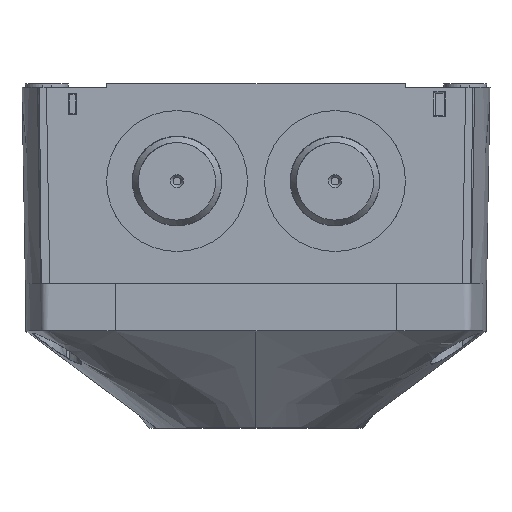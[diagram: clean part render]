
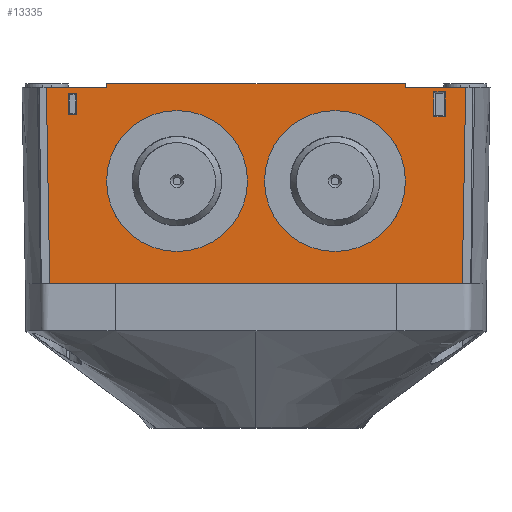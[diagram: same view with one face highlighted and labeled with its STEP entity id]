
A CAD part, top view. The second image highlights one B-rep face of the part: STEP entity #13335.
In plain terms, the highlighted planar face has unit normal (0, 0, 1).
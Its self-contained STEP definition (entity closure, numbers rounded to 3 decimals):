
#2551 = FACE_BOUND ( 'NONE', #16894, .T. ) ;
#2552 = FACE_BOUND ( 'NONE', #13307, .T. ) ;
#2553 = FACE_BOUND ( 'NONE', #16893, .T. ) ;
#2554 = FACE_BOUND ( 'NONE', #13068, .T. ) ;
#2556 = FACE_OUTER_BOUND ( 'NONE', #13258, .T. ) ;
#2949 = PLANE ( 'NONE',  #18860 ) ;
#2958 = CARTESIAN_POINT ( 'NONE',  ( 75., 46.8, 129.4 ) ) ;
#2959 = DIRECTION ( 'NONE',  ( 0., 0., -1. ) ) ;
#2960 = DIRECTION ( 'NONE',  ( -1., 0., 0. ) ) ;
#6425 = AXIS2_PLACEMENT_3D ( 'NONE', #8048, #8049, #8050 ) ;
#6428 = AXIS2_PLACEMENT_3D ( 'NONE', #8067, #8068, #8069 ) ;
#8022 = CARTESIAN_POINT ( 'NONE',  ( -44., 39.5, 129.4 ) ) ;
#8023 = DIRECTION ( 'NONE',  ( 0., -1., 0. ) ) ;
#8026 = CARTESIAN_POINT ( 'NONE',  ( -44., 44.5, 129.4 ) ) ;
#8027 = DIRECTION ( 'NONE',  ( -1., 0., 0. ) ) ;
#8030 = CARTESIAN_POINT ( 'NONE',  ( -42., 44.5, 129.4 ) ) ;
#8031 = DIRECTION ( 'NONE',  ( 0., 1., 0. ) ) ;
#8032 = CARTESIAN_POINT ( 'NONE',  ( -44., 39.5, 129.4 ) ) ;
#8033 = DIRECTION ( 'NONE',  ( 1., 0., 0. ) ) ;
#8048 = CARTESIAN_POINT ( 'NONE',  ( 18.5, 24., 129.4 ) ) ;
#8049 = DIRECTION ( 'NONE',  ( 0., 0., 1. ) ) ;
#8050 = DIRECTION ( 'NONE',  ( 1., 0., 0. ) ) ;
#8067 = CARTESIAN_POINT ( 'NONE',  ( -18.5, 24., 129.4 ) ) ;
#8068 = DIRECTION ( 'NONE',  ( 0., 0., 1. ) ) ;
#8069 = DIRECTION ( 'NONE',  ( 1., 0., 0. ) ) ;
#8078 = CARTESIAN_POINT ( 'NONE',  ( -35., 46., 129.4 ) ) ;
#8079 = DIRECTION ( 'NONE',  ( 0.004, 1., 0. ) ) ;
#8082 = CARTESIAN_POINT ( 'NONE',  ( 35., 46.8, 129.4 ) ) ;
#8083 = DIRECTION ( 'NONE',  ( 1., 0., 0. ) ) ;
#8086 = CARTESIAN_POINT ( 'NONE',  ( 35., 46., 129.4 ) ) ;
#8088 = DIRECTION ( 'NONE',  ( 0.004, -1., 0. ) ) ;
#8207 = LINE ( 'NONE', #8022, #8211 ) ;
#8211 = VECTOR ( 'NONE', #8023, 1000. ) ;
#8212 = LINE ( 'NONE', #8026, #8215 ) ;
#8215 = VECTOR ( 'NONE', #8027, 1000. ) ;
#8216 = LINE ( 'NONE', #8030, #8219 ) ;
#8218 = LINE ( 'NONE', #8032, #8221 ) ;
#8219 = VECTOR ( 'NONE', #8031, 1000. ) ;
#8221 = VECTOR ( 'NONE', #8033, 1000. ) ;
#8224 = CIRCLE ( 'NONE', #6425, 16.5 ) ;
#8227 = CIRCLE ( 'NONE', #6428, 16.5 ) ;
#8237 = LINE ( 'NONE', #8078, #8240 ) ;
#8240 = VECTOR ( 'NONE', #8079, 1000. ) ;
#8241 = LINE ( 'NONE', #8082, #8244 ) ;
#8244 = VECTOR ( 'NONE', #8083, 1000. ) ;
#8245 = LINE ( 'NONE', #8086, #8248 ) ;
#8248 = VECTOR ( 'NONE', #8088, 1000. ) ;
#8329 = LINE ( 'NONE', #9036, #8332 ) ;
#8332 = VECTOR ( 'NONE', #9038, 1000. ) ;
#8358 = LINE ( 'NONE', #9068, #8360 ) ;
#8360 = VECTOR ( 'NONE', #9070, 1000. ) ;
#8361 = LINE ( 'NONE', #9078, #8363 ) ;
#8362 = LINE ( 'NONE', #9082, #8372 ) ;
#8363 = VECTOR ( 'NONE', #9080, 1000. ) ;
#8364 = LINE ( 'NONE', #9084, #8365 ) ;
#8365 = VECTOR ( 'NONE', #9086, 1000. ) ;
#8366 = LINE ( 'NONE', #9088, #8368 ) ;
#8367 = LINE ( 'NONE', #9090, #8370 ) ;
#8368 = VECTOR ( 'NONE', #9089, 1000. ) ;
#8369 = LINE ( 'NONE', #9087, #8374 ) ;
#8370 = VECTOR ( 'NONE', #9092, 1000. ) ;
#8372 = VECTOR ( 'NONE', #9093, 1000. ) ;
#8373 = LINE ( 'NONE', #9096, #8376 ) ;
#8374 = VECTOR ( 'NONE', #9095, 1000. ) ;
#8376 = VECTOR ( 'NONE', #9097, 1000. ) ;
#8939 = VERTEX_POINT ( 'NONE', #11967 ) ;
#8943 = VERTEX_POINT ( 'NONE', #11971 ) ;
#9036 = CARTESIAN_POINT ( 'NONE',  ( 48.3, 0., 129.4 ) ) ;
#9038 = DIRECTION ( 'NONE',  ( -0.017, -1., 0. ) ) ;
#9068 = CARTESIAN_POINT ( 'NONE',  ( 75., 39.101, 129.4 ) ) ;
#9070 = DIRECTION ( 'NONE',  ( -1., 0., 0. ) ) ;
#9078 = CARTESIAN_POINT ( 'NONE',  ( 41.651, 46.8, 129.4 ) ) ;
#9080 = DIRECTION ( 'NONE',  ( 0., 1., 0. ) ) ;
#9082 = CARTESIAN_POINT ( 'NONE',  ( -48.3, 0., 129.4 ) ) ;
#9084 = CARTESIAN_POINT ( 'NONE',  ( 75., 44.899, 129.4 ) ) ;
#9086 = DIRECTION ( 'NONE',  ( 1., 0., 0. ) ) ;
#9087 = CARTESIAN_POINT ( 'NONE',  ( 6., 0., 129.4 ) ) ;
#9088 = CARTESIAN_POINT ( 'NONE',  ( 44.349, 46.8, 129.4 ) ) ;
#9089 = DIRECTION ( 'NONE',  ( 0., -1., 0. ) ) ;
#9090 = CARTESIAN_POINT ( 'NONE',  ( 6., 46., 129.4 ) ) ;
#9092 = DIRECTION ( 'NONE',  ( -1., 0., 0. ) ) ;
#9093 = DIRECTION ( 'NONE',  ( -0.017, 1., 0. ) ) ;
#9095 = DIRECTION ( 'NONE',  ( 1., 0., 0. ) ) ;
#9096 = CARTESIAN_POINT ( 'NONE',  ( 6., 46., 129.4 ) ) ;
#9097 = DIRECTION ( 'NONE',  ( -1., 0., 0. ) ) ;
#10605 = CARTESIAN_POINT ( 'NONE',  ( 48.3, 0., 129.4 ) ) ;
#10612 = CARTESIAN_POINT ( 'NONE',  ( -48.3, 0., 129.4 ) ) ;
#10626 = CARTESIAN_POINT ( 'NONE',  ( 49.103, 46., 129.4 ) ) ;
#10879 = CARTESIAN_POINT ( 'NONE',  ( -42., 44.5, 129.4 ) ) ;
#10950 = CARTESIAN_POINT ( 'NONE',  ( -44., 44.5, 129.4 ) ) ;
#10965 = CARTESIAN_POINT ( 'NONE',  ( -42., 39.5, 129.4 ) ) ;
#10973 = CARTESIAN_POINT ( 'NONE',  ( 34.997, 46.8, 129.4 ) ) ;
#10977 = CARTESIAN_POINT ( 'NONE',  ( -44., 39.5, 129.4 ) ) ;
#10989 = CARTESIAN_POINT ( 'NONE',  ( -35., 46., 129.4 ) ) ;
#11025 = CARTESIAN_POINT ( 'NONE',  ( -34.997, 46.8, 129.4 ) ) ;
#11042 = CARTESIAN_POINT ( 'NONE',  ( 35., 46., 129.4 ) ) ;
#11092 = CARTESIAN_POINT ( 'NONE',  ( 41.651, 44.899, 129.4 ) ) ;
#11098 = CARTESIAN_POINT ( 'NONE',  ( -49.103, 46., 129.4 ) ) ;
#11108 = CARTESIAN_POINT ( 'NONE',  ( 44.349, 44.899, 129.4 ) ) ;
#11109 = CARTESIAN_POINT ( 'NONE',  ( 41.651, 39.101, 129.4 ) ) ;
#11123 = CARTESIAN_POINT ( 'NONE',  ( 44.349, 39.101, 129.4 ) ) ;
#11967 = CARTESIAN_POINT ( 'NONE',  ( 35., 24., 129.4 ) ) ;
#11971 = CARTESIAN_POINT ( 'NONE',  ( -2., 24., 129.4 ) ) ;
#13068 = EDGE_LOOP ( 'NONE', ( #15760, #15761, #15762, #15763 ) ) ;
#13258 = EDGE_LOOP ( 'NONE', ( #15750, #15751, #15752, #15753, #15754, #15755, #15756, #15757 ) ) ;
#13307 = EDGE_LOOP ( 'NONE', ( #15746, #15747, #15748, #15749 ) ) ;
#13335 = ADVANCED_FACE ( 'NONE', ( #2552, #2556, #2553, #2551, #2554 ), #2949, .F. ) ;
#14243 = EDGE_CURVE ( 'NONE', #15099, #15126, #8207, .T. ) ;
#14245 = EDGE_CURVE ( 'NONE', #15028, #15099, #8212, .T. ) ;
#14247 = EDGE_CURVE ( 'NONE', #15114, #15028, #8216, .T. ) ;
#14248 = EDGE_CURVE ( 'NONE', #15126, #15114, #8218, .T. ) ;
#14252 = EDGE_CURVE ( 'NONE', #8939, #8939, #8224, .T. ) ;
#14256 = EDGE_CURVE ( 'NONE', #8943, #8943, #8227, .T. ) ;
#14262 = EDGE_CURVE ( 'NONE', #15138, #15174, #8237, .T. ) ;
#14264 = EDGE_CURVE ( 'NONE', #15174, #15122, #8241, .T. ) ;
#14266 = EDGE_CURVE ( 'NONE', #15122, #15191, #8245, .T. ) ;
#14322 = EDGE_CURVE ( 'NONE', #14775, #14754, #8329, .T. ) ;
#14338 = EDGE_CURVE ( 'NONE', #15272, #15258, #8358, .T. ) ;
#14341 = EDGE_CURVE ( 'NONE', #15258, #15241, #8361, .T. ) ;
#14343 = EDGE_CURVE ( 'NONE', #15241, #15257, #8364, .T. ) ;
#14344 = EDGE_CURVE ( 'NONE', #15257, #15272, #8366, .T. ) ;
#14345 = EDGE_CURVE ( 'NONE', #15138, #15247, #8367, .T. ) ;
#14346 = EDGE_CURVE ( 'NONE', #14761, #15247, #8362, .T. ) ;
#14347 = EDGE_CURVE ( 'NONE', #14761, #14754, #8369, .T. ) ;
#14348 = EDGE_CURVE ( 'NONE', #14775, #15191, #8373, .T. ) ;
#14754 = VERTEX_POINT ( 'NONE', #10605 ) ;
#14761 = VERTEX_POINT ( 'NONE', #10612 ) ;
#14775 = VERTEX_POINT ( 'NONE', #10626 ) ;
#15028 = VERTEX_POINT ( 'NONE', #10879 ) ;
#15099 = VERTEX_POINT ( 'NONE', #10950 ) ;
#15114 = VERTEX_POINT ( 'NONE', #10965 ) ;
#15122 = VERTEX_POINT ( 'NONE', #10973 ) ;
#15126 = VERTEX_POINT ( 'NONE', #10977 ) ;
#15138 = VERTEX_POINT ( 'NONE', #10989 ) ;
#15174 = VERTEX_POINT ( 'NONE', #11025 ) ;
#15191 = VERTEX_POINT ( 'NONE', #11042 ) ;
#15241 = VERTEX_POINT ( 'NONE', #11092 ) ;
#15247 = VERTEX_POINT ( 'NONE', #11098 ) ;
#15257 = VERTEX_POINT ( 'NONE', #11108 ) ;
#15258 = VERTEX_POINT ( 'NONE', #11109 ) ;
#15272 = VERTEX_POINT ( 'NONE', #11123 ) ;
#15746 = ORIENTED_EDGE ( 'NONE', *, *, #14344, .T. ) ;
#15747 = ORIENTED_EDGE ( 'NONE', *, *, #14338, .T. ) ;
#15748 = ORIENTED_EDGE ( 'NONE', *, *, #14341, .T. ) ;
#15749 = ORIENTED_EDGE ( 'NONE', *, *, #14343, .T. ) ;
#15750 = ORIENTED_EDGE ( 'NONE', *, *, #14345, .T. ) ;
#15751 = ORIENTED_EDGE ( 'NONE', *, *, #14346, .F. ) ;
#15752 = ORIENTED_EDGE ( 'NONE', *, *, #14347, .T. ) ;
#15753 = ORIENTED_EDGE ( 'NONE', *, *, #14322, .F. ) ;
#15754 = ORIENTED_EDGE ( 'NONE', *, *, #14348, .T. ) ;
#15755 = ORIENTED_EDGE ( 'NONE', *, *, #14266, .F. ) ;
#15756 = ORIENTED_EDGE ( 'NONE', *, *, #14264, .F. ) ;
#15757 = ORIENTED_EDGE ( 'NONE', *, *, #14262, .F. ) ;
#15758 = ORIENTED_EDGE ( 'NONE', *, *, #14256, .F. ) ;
#15759 = ORIENTED_EDGE ( 'NONE', *, *, #14252, .F. ) ;
#15760 = ORIENTED_EDGE ( 'NONE', *, *, #14248, .F. ) ;
#15761 = ORIENTED_EDGE ( 'NONE', *, *, #14243, .F. ) ;
#15762 = ORIENTED_EDGE ( 'NONE', *, *, #14245, .F. ) ;
#15763 = ORIENTED_EDGE ( 'NONE', *, *, #14247, .F. ) ;
#16893 = EDGE_LOOP ( 'NONE', ( #15758 ) ) ;
#16894 = EDGE_LOOP ( 'NONE', ( #15759 ) ) ;
#18860 = AXIS2_PLACEMENT_3D ( 'NONE', #2958, #2959, #2960 ) ;
